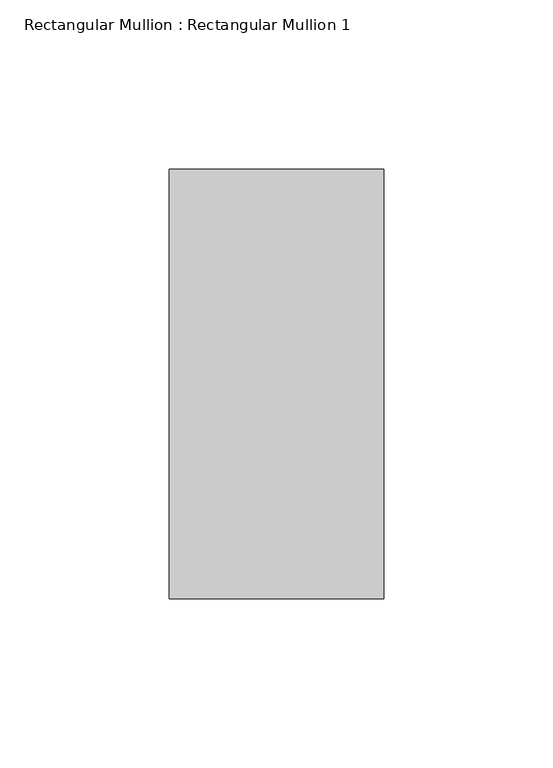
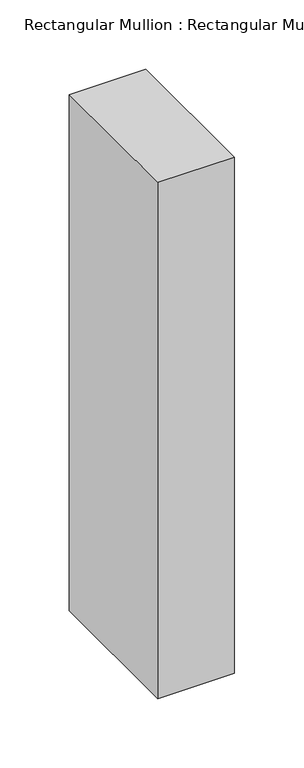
"""IFC4 building model written with IfcOpenShell, lengths in millimetres: member geometry, Rectangular Mullion : Rectangular Mullion 1."""

from ifc_helpers import new_model, si_unit, frame, origin, place, context, project, spatial, polyline, outline, extrude, source, transform, mapped, element, save


def rectangular_mullion_rectangular_mullion_1_9767f737(model_context):
    return source(origin(), model_context, "Body", "SweptSolid", [
        extrude(outline(polyline([(31.75, 63.5), (31.75, -63.5), (-31.75, -63.5), (-31.75, 63.5), (31.75, 63.5)])), frame((0.0, 0.0, -453.4973635), z_axis=(0.0, 0.0, 1.0), x_axis=(1.0, 0.0, 0.0)), (0.0, 0.0, 1.0), 453.4973635),
    ])


if __name__ == "__main__":
    model = new_model("IFC4")
    model_context = context("Model", 3, world=origin())
    ifc_project = project(units=[si_unit("LENGTHUNIT", "METRE", prefix="MILLI")], contexts=[model_context])
    site = spatial("IfcSite", under=ifc_project)
    building = spatial("IfcBuilding", under=site)
    placement = place(None, origin())
    rectangular_mullion_rectangular_mullion_1_shape = rectangular_mullion_rectangular_mullion_1_9767f737(model_context)
    element("IfcMember", 1, ObjectType="Rectangular Mullion : Rectangular Mullion 1", at=placement, inside=building, context=model_context, shape_type="MappedRepresentation", body=[
        mapped(rectangular_mullion_rectangular_mullion_1_shape, transform((0.0, 0.0, 0.0), x_axis=(1.0, 0.0, 0.0), y_axis=(0.0, 1.0, 0.0), z_axis=(0.0, 0.0, 1.0))),
    ])
    save(model, "model.ifc")
